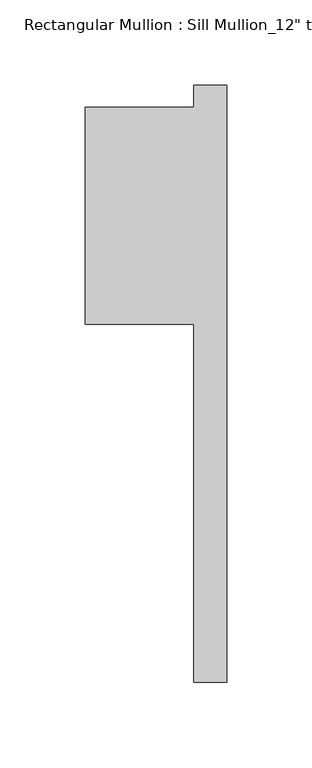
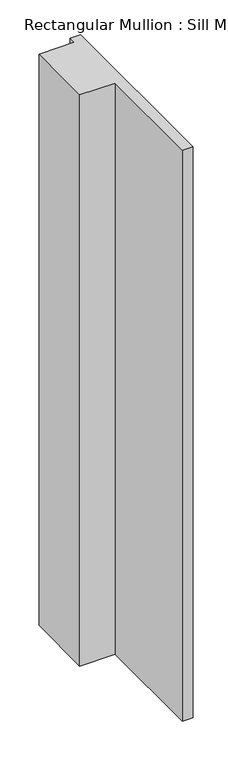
"""IFC4 building model written with IfcOpenShell, lengths in millimetres: member geometry."""

from ifc_helpers import new_model, si_unit, frame, origin, place, context, project, spatial, polyline, outline, extrude, source, transform, mapped, element, save


def member_43f40f2a(model_context):
    return source(origin(), model_context, "Body", "SweptSolid", [
        extrude(outline(polyline([(-82.55, -50.8), (-82.55, 76.2), (-19.05, 76.2), (-19.05, 88.9), (0.0, 88.9), (0.0, -260.35), (-19.05, -260.35), (-19.05, -50.8), (-82.55, -50.8)])), frame((0.0, 0.0, -1082.1458333), z_axis=(0.0, 0.0, 1.0), x_axis=(1.0, 0.0, 0.0)), (0.0, 0.0, 1.0), 1082.1458333),
    ])


if __name__ == "__main__":
    model = new_model("IFC4")
    model_context = context("Model", 3, world=origin())
    ifc_project = project(units=[si_unit("LENGTHUNIT", "METRE", prefix="MILLI")], contexts=[model_context])
    site = spatial("IfcSite", under=ifc_project)
    building = spatial("IfcBuilding", under=site)
    placement = place(None, origin())
    member_shape = member_43f40f2a(model_context)
    element("IfcMember", 1, ObjectType="Rectangular Mullion : Sill Mullion_12\" thick wall", at=placement, inside=building, context=model_context, shape_type="MappedRepresentation", body=[
        mapped(member_shape, transform((0.0, 0.0, 0.0), x_axis=(1.0, 0.0, 0.0), y_axis=(0.0, 1.0, 0.0), z_axis=(0.0, 0.0, 1.0))),
    ])
    save(model, "model.ifc")
